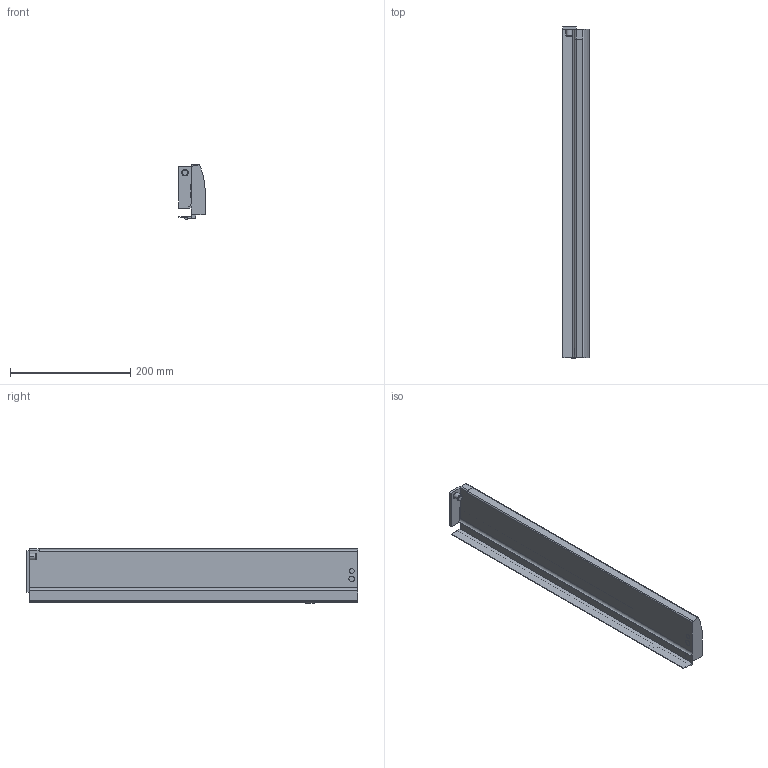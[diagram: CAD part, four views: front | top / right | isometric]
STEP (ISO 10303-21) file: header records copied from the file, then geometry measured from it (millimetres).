
FILE_DESCRIPTION (( 'STEP AP214' ), '1' );
FILE_NAME ('_IMOS_NOVA-Pro_Dekor-H90_DL_NL550_RE.step', '2010-07-06T09:14:17', ( 'grass' ), ( '' ), 'SwSTEP 2.0', 'SolidWorks 2009', '' );
FILE_SCHEMA (( 'AUTOMOTIVE_DESIGN' ));
Length unit declared in the file: millimetre
Products named in the file (1): _IMOS_NOVA-Pro_Dekor-H90_DL_NL550_RE
Bounding box: 44.3 x 552.7 x 90.49 mm (x, y, z)
Volume: 598273 mm3; surface area: 188894.6 mm2
Topology: 1 solids, 1 shells, 69 faces, 182 edges, 120 vertices
Faces by surface type: plane 47, cylinder 17, cone 4, bspline 1
Entity records: 2168 total; most frequent: CARTESIAN_POINT 393, ORIENTED_EDGE 364, DIRECTION 357, EDGE_CURVE 182, LINE 141, VECTOR 141, VERTEX_POINT 120, AXIS2_PLACEMENT_3D 108
